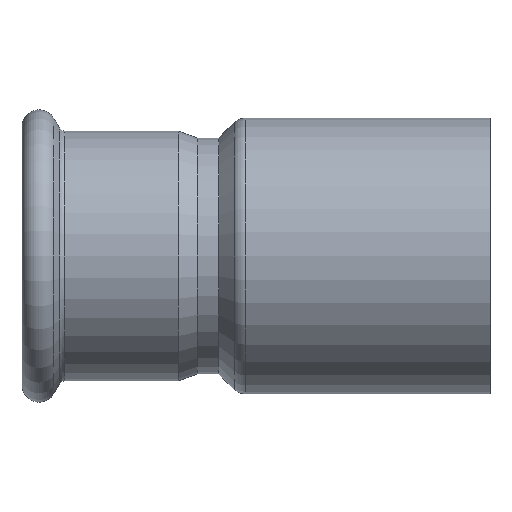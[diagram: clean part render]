
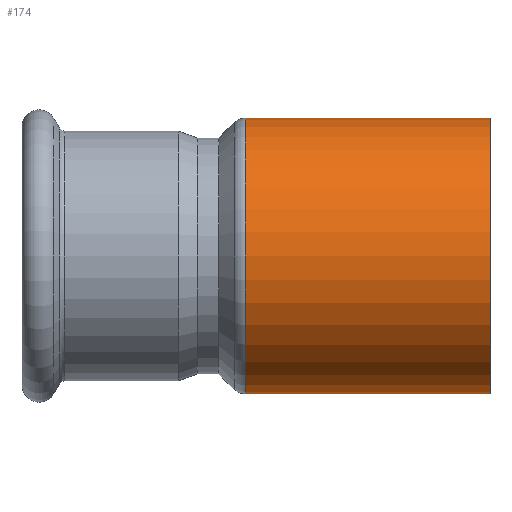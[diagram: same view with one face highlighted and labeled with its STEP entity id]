
A CAD part, front view. The second image highlights one B-rep face of the part: STEP entity #174.
In plain terms, the highlighted cylindrical face has radius 44.45 mm (diameter 88.9 mm), a full revolution.
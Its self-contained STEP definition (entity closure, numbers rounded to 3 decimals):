
#123=CARTESIAN_POINT('',(-79.029,44.45,0.));
#124=VERTEX_POINT('',#123);
#125=CARTESIAN_POINT('',(-79.029,0.0,0.0));
#126=DIRECTION('',(-1.0,0.0,0.0));
#127=DIRECTION('',(0.0,-1.0,0.0));
#128=AXIS2_PLACEMENT_3D('',#125,#126,#127);
#129=CIRCLE('',#128,44.45);
#130=EDGE_CURVE('',#124,#124,#129,.T.);
#155=CARTESIAN_POINT('',(-40.55,0.0,0.0));
#156=DIRECTION('',(1.0,0.0,0.0));
#157=DIRECTION('',(0.0,1.0,0.0));
#158=AXIS2_PLACEMENT_3D('',#155,#156,#157);
#159=CYLINDRICAL_SURFACE('',#158,44.45);
#160=CARTESIAN_POINT('',(0.,44.45,0.0));
#161=VERTEX_POINT('',#160);
#162=CARTESIAN_POINT('',(0.,0.0,0.0));
#163=DIRECTION('',(1.0,0.0,0.0));
#164=DIRECTION('',(0.0,1.0,0.0));
#165=AXIS2_PLACEMENT_3D('',#162,#163,#164);
#166=CIRCLE('',#165,44.45);
#167=EDGE_CURVE('',#161,#161,#166,.T.);
#168=ORIENTED_EDGE('',*,*,#167,.F.);
#169=EDGE_LOOP('',(#168));
#170=FACE_OUTER_BOUND('',#169,.T.);
#171=ORIENTED_EDGE('',*,*,#130,.F.);
#172=EDGE_LOOP('',(#171));
#173=FACE_BOUND('',#172,.T.);
#174=ADVANCED_FACE('',(#170,#173),#159,.T.);
